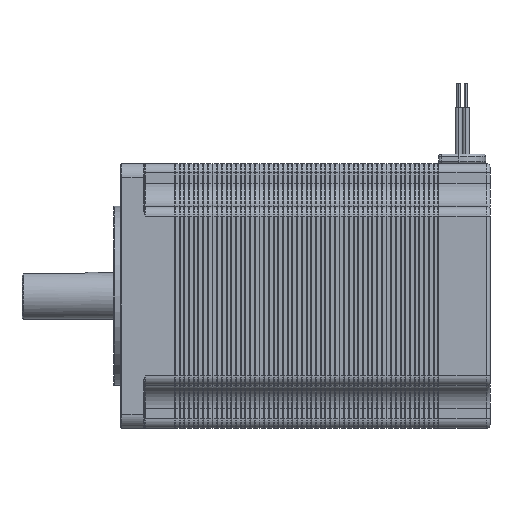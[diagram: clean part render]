
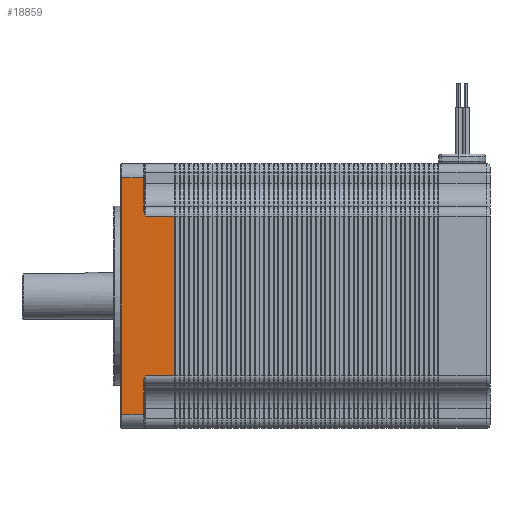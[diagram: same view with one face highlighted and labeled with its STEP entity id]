
A CAD part, left-side view. The second image highlights one B-rep face of the part: STEP entity #18859.
In plain terms, the highlighted planar face has unit normal (-1, 0, 0).
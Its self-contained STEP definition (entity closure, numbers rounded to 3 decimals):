
#957 = CARTESIAN_POINT ( 'NONE',  ( -28.15, 78.5, 17. ) ) ;
#2476 = FACE_OUTER_BOUND ( 'NONE', #126095, .T. ) ;
#3288 = CARTESIAN_POINT ( 'NONE',  ( -28.15, 73.491, -17.403 ) ) ;
#3447 = DIRECTION ( 'NONE',  ( 0., 0., -1. ) ) ;
#5299 = B_SPLINE_CURVE_WITH_KNOTS ( 'NONE', 3,
 ( #33170, #123234, #64154, #3288, #93256, #30317 ),
 .UNSPECIFIED., .F., .F.,
 ( 4, 2, 4 ),
 ( 0., 0.001, 0.001 ),
 .UNSPECIFIED. ) ;
#5390 = VERTEX_POINT ( 'NONE', #168418 ) ;
#5392 = CARTESIAN_POINT ( 'NONE',  ( -28.15, 73.3, -17. ) ) ;
#9221 = EDGE_CURVE ( 'NONE', #31261, #21992, #161608, .T. ) ;
#9290 = LINE ( 'NONE', #156304, #36357 ) ;
#9544 = EDGE_CURVE ( 'NONE', #125954, #25146, #9290, .T. ) ;
#11313 = CARTESIAN_POINT ( 'NONE',  ( -28.15, 73.7, 18.04 ) ) ;
#11813 = ORIENTED_EDGE ( 'NONE', *, *, #9544, .T. ) ;
#14054 = DIRECTION ( 'NONE',  ( 1., 0., 0. ) ) ;
#14684 = EDGE_CURVE ( 'NONE', #184990, #5390, #173913, .T. ) ;
#15636 = CARTESIAN_POINT ( 'NONE',  ( -28.15, 78.3, -25.15 ) ) ;
#18859 = ADVANCED_FACE ( 'NONE', ( #2476 ), #146708, .F. ) ;
#21992 = VERTEX_POINT ( 'NONE', #103558 ) ;
#25146 = VERTEX_POINT ( 'NONE', #119686 ) ;
#27246 = DIRECTION ( 'NONE',  ( 0., 0., -1. ) ) ;
#28974 = DIRECTION ( 'NONE',  ( 0., -1., 0. ) ) ;
#29080 = VECTOR ( 'NONE', #31513, 1000. ) ;
#30317 = CARTESIAN_POINT ( 'NONE',  ( -28.15, 73.3, -17. ) ) ;
#31261 = VERTEX_POINT ( 'NONE', #50195 ) ;
#31513 = DIRECTION ( 'NONE',  ( 0., 1., 0. ) ) ;
#32401 = CARTESIAN_POINT ( 'NONE',  ( -28.15, 78.5, -17. ) ) ;
#33170 = CARTESIAN_POINT ( 'NONE',  ( -28.15, 73.7, -18.265 ) ) ;
#34706 = ORIENTED_EDGE ( 'NONE', *, *, #14684, .T. ) ;
#35992 = ORIENTED_EDGE ( 'NONE', *, *, #9221, .F. ) ;
#36357 = VECTOR ( 'NONE', #124502, 1000. ) ;
#43935 = CARTESIAN_POINT ( 'NONE',  ( -28.15, 73.5, 25.15 ) ) ;
#44171 = LINE ( 'NONE', #90623, #51786 ) ;
#46056 = LINE ( 'NONE', #87740, #29080 ) ;
#46452 = EDGE_CURVE ( 'NONE', #159925, #155267, #46056, .T. ) ;
#50195 = CARTESIAN_POINT ( 'NONE',  ( -28.15, 73.3, 17. ) ) ;
#51786 = VECTOR ( 'NONE', #160352, 1000. ) ;
#54212 = VECTOR ( 'NONE', #175540, 1000. ) ;
#64154 = CARTESIAN_POINT ( 'NONE',  ( -28.15, 73.642, -17.823 ) ) ;
#64176 = B_SPLINE_CURVE_WITH_KNOTS ( 'NONE', 3,
 ( #84938, #66508, #170971, #125551, #11313, #188346 ),
 .UNSPECIFIED., .F., .F.,
 ( 4, 2, 4 ),
 ( 0., 0.001, 0.001 ),
 .UNSPECIFIED. ) ;
#66508 = CARTESIAN_POINT ( 'NONE',  ( -28.15, 73.395, 17.202 ) ) ;
#73670 = CARTESIAN_POINT ( 'NONE',  ( -28.15, 78.3, 25.15 ) ) ;
#73701 = EDGE_CURVE ( 'NONE', #25146, #160477, #160106, .T. ) ;
#82900 = VECTOR ( 'NONE', #28974, 1000. ) ;
#84938 = CARTESIAN_POINT ( 'NONE',  ( -28.15, 73.3, 17. ) ) ;
#85788 = ORIENTED_EDGE ( 'NONE', *, *, #46452, .F. ) ;
#87740 = CARTESIAN_POINT ( 'NONE',  ( -28.15, 73.5, -25.15 ) ) ;
#88469 = ORIENTED_EDGE ( 'NONE', *, *, #103026, .T. ) ;
#90519 = CARTESIAN_POINT ( 'NONE',  ( -28.15, 67.1, -17. ) ) ;
#90623 = CARTESIAN_POINT ( 'NONE',  ( -28.15, 73.7, -17. ) ) ;
#93256 = CARTESIAN_POINT ( 'NONE',  ( -28.15, 73.395, -17.201 ) ) ;
#96941 = ORIENTED_EDGE ( 'NONE', *, *, #180832, .T. ) ;
#99657 = VERTEX_POINT ( 'NONE', #119554 ) ;
#102342 = VECTOR ( 'NONE', #27246, 1000. ) ;
#103026 = EDGE_CURVE ( 'NONE', #5390, #21992, #165978, .T. ) ;
#103558 = CARTESIAN_POINT ( 'NONE',  ( -28.15, 67.1, 17. ) ) ;
#104120 = DIRECTION ( 'NONE',  ( 0., 0., 1. ) ) ;
#113998 = DIRECTION ( 'NONE',  ( 0., -1., 0. ) ) ;
#119092 = CARTESIAN_POINT ( 'NONE',  ( -28.15, 73.7, 18.265 ) ) ;
#119554 = CARTESIAN_POINT ( 'NONE',  ( -28.15, 73.7, -18.265 ) ) ;
#119686 = CARTESIAN_POINT ( 'NONE',  ( -28.15, 73.7, 25.15 ) ) ;
#121711 = VECTOR ( 'NONE', #113998, 1000. ) ;
#123234 = CARTESIAN_POINT ( 'NONE',  ( -28.15, 73.7, -18.04 ) ) ;
#124502 = DIRECTION ( 'NONE',  ( 0., 0., 1. ) ) ;
#125551 = CARTESIAN_POINT ( 'NONE',  ( -28.15, 73.642, 17.823 ) ) ;
#125954 = VERTEX_POINT ( 'NONE', #119092 ) ;
#126095 = EDGE_LOOP ( 'NONE', ( #139629, #130825, #85788, #138579, #96941, #34706, #88469, #35992, #163535, #11813 ) ) ;
#129896 = LINE ( 'NONE', #159852, #102342 ) ;
#130290 = CARTESIAN_POINT ( 'NONE',  ( -28.15, 73.7, -25.15 ) ) ;
#130825 = ORIENTED_EDGE ( 'NONE', *, *, #134366, .T. ) ;
#131614 = EDGE_CURVE ( 'NONE', #159925, #99657, #44171, .T. ) ;
#134366 = EDGE_CURVE ( 'NONE', #160477, #155267, #129896, .T. ) ;
#138579 = ORIENTED_EDGE ( 'NONE', *, *, #131614, .T. ) ;
#139629 = ORIENTED_EDGE ( 'NONE', *, *, #73701, .T. ) ;
#146708 = PLANE ( 'NONE',  #171282 ) ;
#155267 = VERTEX_POINT ( 'NONE', #15636 ) ;
#156304 = CARTESIAN_POINT ( 'NONE',  ( -28.15, 73.7, -17. ) ) ;
#159852 = CARTESIAN_POINT ( 'NONE',  ( -28.15, 78.3, -25.15 ) ) ;
#159925 = VERTEX_POINT ( 'NONE', #130290 ) ;
#160106 = LINE ( 'NONE', #43935, #54212 ) ;
#160352 = DIRECTION ( 'NONE',  ( 0., 0., 1. ) ) ;
#160477 = VERTEX_POINT ( 'NONE', #73670 ) ;
#161608 = LINE ( 'NONE', #957, #82900 ) ;
#163535 = ORIENTED_EDGE ( 'NONE', *, *, #167850, .T. ) ;
#165978 = LINE ( 'NONE', #90519, #176368 ) ;
#167850 = EDGE_CURVE ( 'NONE', #31261, #125954, #64176, .T. ) ;
#168418 = CARTESIAN_POINT ( 'NONE',  ( -28.15, 67.1, -17. ) ) ;
#170971 = CARTESIAN_POINT ( 'NONE',  ( -28.15, 73.491, 17.403 ) ) ;
#171282 = AXIS2_PLACEMENT_3D ( 'NONE', #32401, #14054, #3447 ) ;
#173913 = LINE ( 'NONE', #186517, #121711 ) ;
#175540 = DIRECTION ( 'NONE',  ( 0., 1., 0. ) ) ;
#176368 = VECTOR ( 'NONE', #104120, 1000. ) ;
#180832 = EDGE_CURVE ( 'NONE', #99657, #184990, #5299, .T. ) ;
#184990 = VERTEX_POINT ( 'NONE', #5392 ) ;
#186517 = CARTESIAN_POINT ( 'NONE',  ( -28.15, 78.5, -17. ) ) ;
#188346 = CARTESIAN_POINT ( 'NONE',  ( -28.15, 73.7, 18.265 ) ) ;
